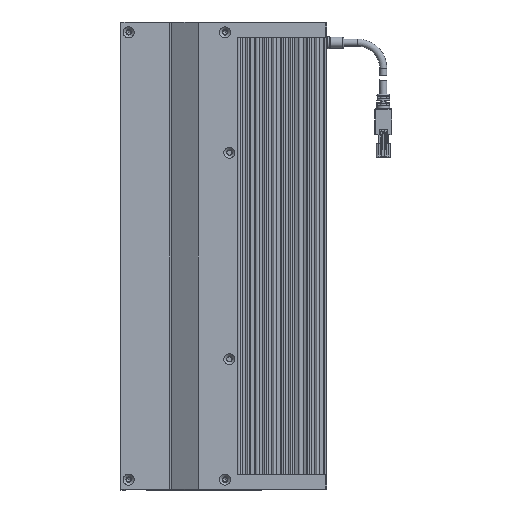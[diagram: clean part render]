
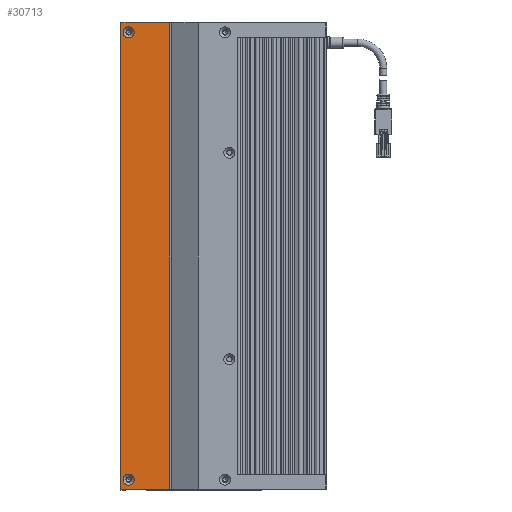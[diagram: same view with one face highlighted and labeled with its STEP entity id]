
A CAD part, left-side view. The second image highlights one B-rep face of the part: STEP entity #30713.
In plain terms, the highlighted planar face has unit normal (-1, 0, 0).
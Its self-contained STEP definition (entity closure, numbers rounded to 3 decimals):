
#21 = ORIENTED_EDGE ( 'NONE', *, *, #17424, .F. ) ;
#167 = EDGE_LOOP ( 'NONE', ( #21, #11283, #10233, #30546 ) ) ;
#320 = CARTESIAN_POINT ( 'NONE',  ( -15.462, -6.987, 391. ) ) ;
#535 = VERTEX_POINT ( 'NONE', #19925 ) ;
#774 = DIRECTION ( 'NONE',  ( 0., -1., 0. ) ) ;
#1512 = CIRCLE ( 'NONE', #31867, 3.15 ) ;
#1588 = VECTOR ( 'NONE', #774, 1000. ) ;
#1886 = ORIENTED_EDGE ( 'NONE', *, *, #28363, .F. ) ;
#4422 = CARTESIAN_POINT ( 'NONE',  ( -15.462, 21.439, 389.5 ) ) ;
#4579 = CIRCLE ( 'NONE', #13069, 3.15 ) ;
#4797 = VECTOR ( 'NONE', #11139, 1000. ) ;
#5039 = VERTEX_POINT ( 'NONE', #32018 ) ;
#5311 = ORIENTED_EDGE ( 'NONE', *, *, #25927, .F. ) ;
#5457 = LINE ( 'NONE', #4422, #16332 ) ;
#5739 = VERTEX_POINT ( 'NONE', #22048 ) ;
#6063 = FACE_OUTER_BOUND ( 'NONE', #167, .T. ) ;
#6591 = VERTEX_POINT ( 'NONE', #31242 ) ;
#8072 = FACE_BOUND ( 'NONE', #13828, .T. ) ;
#8404 = LINE ( 'NONE', #18744, #4797 ) ;
#8457 = CARTESIAN_POINT ( 'NONE',  ( -15.462, -6.987, 120. ) ) ;
#9462 = DIRECTION ( 'NONE',  ( -1., 0., 0. ) ) ;
#9732 = DIRECTION ( 'NONE',  ( 0., 0., 1. ) ) ;
#10059 = DIRECTION ( 'NONE',  ( 0., 0., 1. ) ) ;
#10233 = ORIENTED_EDGE ( 'NONE', *, *, #24858, .F. ) ;
#10476 = VERTEX_POINT ( 'NONE', #8457 ) ;
#10704 = CARTESIAN_POINT ( 'NONE',  ( -15.462, -7.561, 391. ) ) ;
#10875 = LINE ( 'NONE', #10704, #1588 ) ;
#11139 = DIRECTION ( 'NONE',  ( 0., 0., -1. ) ) ;
#11283 = ORIENTED_EDGE ( 'NONE', *, *, #18303, .F. ) ;
#13069 = AXIS2_PLACEMENT_3D ( 'NONE', #17449, #20036, #10059 ) ;
#13828 = EDGE_LOOP ( 'NONE', ( #5311 ) ) ;
#14515 = DIRECTION ( 'NONE',  ( 0., 1., 0. ) ) ;
#15445 = EDGE_LOOP ( 'NONE', ( #1886 ) ) ;
#16332 = VECTOR ( 'NONE', #9732, 1000. ) ;
#16345 = VERTEX_POINT ( 'NONE', #320 ) ;
#17424 = EDGE_CURVE ( 'NONE', #6591, #5039, #5457, .T. ) ;
#17449 = CARTESIAN_POINT ( 'NONE',  ( -15.462, 16.939, 125.5 ) ) ;
#18303 = EDGE_CURVE ( 'NONE', #10476, #6591, #27855, .T. ) ;
#18744 = CARTESIAN_POINT ( 'NONE',  ( -15.462, -6.987, 389.5 ) ) ;
#19443 = CARTESIAN_POINT ( 'NONE',  ( -15.462, 16.939, 385.5 ) ) ;
#19589 = CARTESIAN_POINT ( 'NONE',  ( -15.462, -7.561, 120. ) ) ;
#19925 = CARTESIAN_POINT ( 'NONE',  ( -15.462, 16.939, 388.65 ) ) ;
#19999 = AXIS2_PLACEMENT_3D ( 'NONE', #32694, #32365, #27239 ) ;
#20036 = DIRECTION ( 'NONE',  ( -1., 0., 0. ) ) ;
#22048 = CARTESIAN_POINT ( 'NONE',  ( -15.462, 16.939, 128.65 ) ) ;
#22119 = DIRECTION ( 'NONE',  ( 0., 0., 1. ) ) ;
#22175 = EDGE_CURVE ( 'NONE', #5039, #16345, #10875, .T. ) ;
#24688 = PLANE ( 'NONE',  #19999 ) ;
#24858 = EDGE_CURVE ( 'NONE', #16345, #10476, #8404, .T. ) ;
#25844 = VECTOR ( 'NONE', #14515, 1000. ) ;
#25927 = EDGE_CURVE ( 'NONE', #535, #535, #1512, .T. ) ;
#27239 = DIRECTION ( 'NONE',  ( 0., 0., -1. ) ) ;
#27855 = LINE ( 'NONE', #19589, #25844 ) ;
#28363 = EDGE_CURVE ( 'NONE', #5739, #5739, #4579, .T. ) ;
#30546 = ORIENTED_EDGE ( 'NONE', *, *, #22175, .F. ) ;
#30713 = ADVANCED_FACE ( 'NONE', ( #32508, #8072, #6063 ), #24688, .F. ) ;
#31242 = CARTESIAN_POINT ( 'NONE',  ( -15.462, 21.439, 120. ) ) ;
#31867 = AXIS2_PLACEMENT_3D ( 'NONE', #19443, #9462, #22119 ) ;
#32018 = CARTESIAN_POINT ( 'NONE',  ( -15.462, 21.439, 391. ) ) ;
#32365 = DIRECTION ( 'NONE',  ( 1., 0., 0. ) ) ;
#32508 = FACE_BOUND ( 'NONE', #15445, .T. ) ;
#32694 = CARTESIAN_POINT ( 'NONE',  ( -15.462, -7.561, 389.5 ) ) ;
